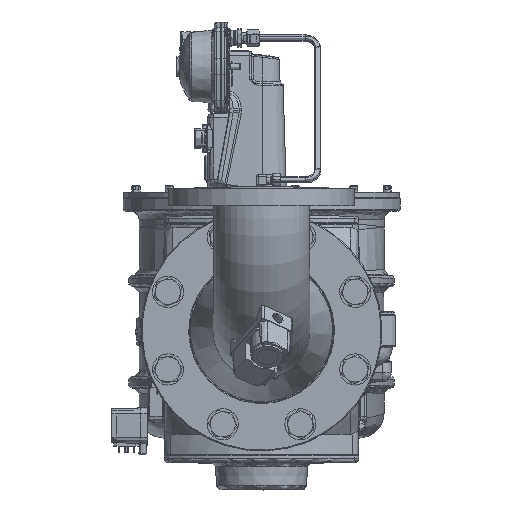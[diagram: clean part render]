
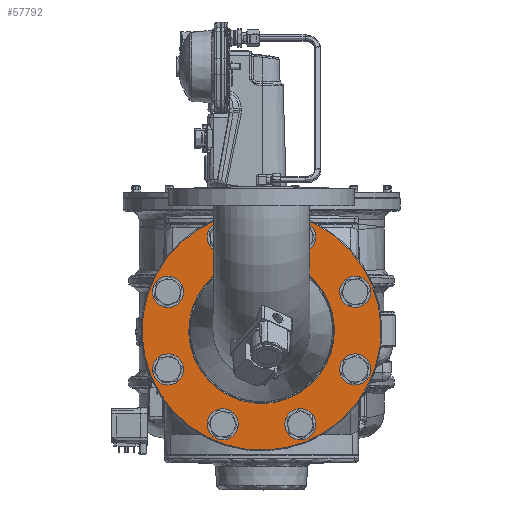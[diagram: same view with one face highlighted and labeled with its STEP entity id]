
A CAD part, top view. The second image highlights one B-rep face of the part: STEP entity #57792.
In plain terms, the highlighted planar face has unit normal (0, 0, 1).
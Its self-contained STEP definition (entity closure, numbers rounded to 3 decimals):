
#8267 = DIRECTION ( 'NONE',  ( 0., 0., -1. ) ) ;
#15232 = EDGE_LOOP ( 'NONE', ( #346216 ) ) ;
#19787 = ORIENTED_EDGE ( 'NONE', *, *, #358147, .F. ) ;
#21440 = VERTEX_POINT ( 'NONE', #100698 ) ;
#27723 = DIRECTION ( 'NONE',  ( 0.924, 0.383, 0. ) ) ;
#40784 = ORIENTED_EDGE ( 'NONE', *, *, #172835, .F. ) ;
#40843 = VERTEX_POINT ( 'NONE', #321013 ) ;
#42756 = CARTESIAN_POINT ( 'NONE',  ( 54.297, -41.712, 267. ) ) ;
#47467 = VERTEX_POINT ( 'NONE', #242909 ) ;
#53328 = CARTESIAN_POINT ( 'NONE',  ( 276.028, -41.712, 267. ) ) ;
#54954 = EDGE_CURVE ( 'NONE', #390035, #390035, #460704, .T. ) ;
#56731 = FACE_BOUND ( 'NONE', #164769, .T. ) ;
#57792 = ADVANCED_FACE ( 'NONE', ( #453540, #471714, #386985, #138490, #56731, #98920, #347314, #307469, #508804, #257393 ), #104023, .T. ) ;
#65318 = CARTESIAN_POINT ( 'NONE',  ( 44.134, 45.922, 267. ) ) ;
#72057 = CARTESIAN_POINT ( 'NONE',  ( 276.028, 50.132, 267. ) ) ;
#72434 = ORIENTED_EDGE ( 'NONE', *, *, #54954, .F. ) ;
#74533 = ORIENTED_EDGE ( 'NONE', *, *, #510893, .F. ) ;
#89043 = AXIS2_PLACEMENT_3D ( 'NONE', #372453, #335293, #168843 ) ;
#98920 = FACE_BOUND ( 'NONE', #141818, .T. ) ;
#100238 = DIRECTION ( 'NONE',  ( 0.924, 0.383, 0. ) ) ;
#100698 = CARTESIAN_POINT ( 'NONE',  ( 211.085, -106.656, 267. ) ) ;
#101795 = DIRECTION ( 'NONE',  ( 0., 0., 1. ) ) ;
#104023 = PLANE ( 'NONE',  #352350 ) ;
#106185 = EDGE_CURVE ( 'NONE', #362671, #362671, #191320, .T. ) ;
#108962 = CIRCLE ( 'NONE', #455378, 11. ) ;
#112697 = DIRECTION ( 'NONE',  ( 0.924, 0.383, 0. ) ) ;
#117382 = CARTESIAN_POINT ( 'NONE',  ( 109.078, 110.866, 267. ) ) ;
#138490 = FACE_BOUND ( 'NONE', #489951, .T. ) ;
#141818 = EDGE_LOOP ( 'NONE', ( #354509 ) ) ;
#146794 = CIRCLE ( 'NONE', #307150, 11. ) ;
#151322 = VERTEX_POINT ( 'NONE', #72057 ) ;
#153486 = CIRCLE ( 'NONE', #432197, 11. ) ;
#154138 = CIRCLE ( 'NONE', #323202, 11. ) ;
#157381 = AXIS2_PLACEMENT_3D ( 'NONE', #509145, #345040, #27723 ) ;
#164769 = EDGE_LOOP ( 'NONE', ( #472290 ) ) ;
#166217 = ORIENTED_EDGE ( 'NONE', *, *, #277567, .F. ) ;
#168458 = CIRCLE ( 'NONE', #514671, 11. ) ;
#168843 = DIRECTION ( 'NONE',  ( 0.924, 0.383, 0. ) ) ;
#170377 = CARTESIAN_POINT ( 'NONE',  ( 211.085, 115.075, 267. ) ) ;
#172835 = EDGE_CURVE ( 'NONE', #313090, #313090, #146794, .T. ) ;
#174708 = EDGE_CURVE ( 'NONE', #40843, #40843, #224855, .T. ) ;
#181195 = EDGE_LOOP ( 'NONE', ( #304649 ) ) ;
#186007 = DIRECTION ( 'NONE',  ( 0., 0., 1. ) ) ;
#191320 = CIRCLE ( 'NONE', #157381, 11. ) ;
#194154 = DIRECTION ( 'NONE',  ( 0., 0., 1. ) ) ;
#221114 = AXIS2_PLACEMENT_3D ( 'NONE', #306204, #515226, #470410 ) ;
#224325 = CARTESIAN_POINT ( 'NONE',  ( 200.922, -110.866, 267. ) ) ;
#224855 = CIRCLE ( 'NONE', #504123, 86.25 ) ;
#226339 = EDGE_CURVE ( 'NONE', #21440, #21440, #108962, .T. ) ;
#226884 = DIRECTION ( 'NONE',  ( 0., 0., 1. ) ) ;
#236341 = CARTESIAN_POINT ( 'NONE',  ( 54.297, 50.132, 267. ) ) ;
#240111 = DIRECTION ( 'NONE',  ( 0.924, 0.383, 0. ) ) ;
#242909 = CARTESIAN_POINT ( 'NONE',  ( 285.729, 54.15, 267. ) ) ;
#247790 = EDGE_CURVE ( 'NONE', #47467, #47467, #474625, .T. ) ;
#255114 = CARTESIAN_POINT ( 'NONE',  ( 265.866, 45.922, 267. ) ) ;
#257393 = FACE_OUTER_BOUND ( 'NONE', #181195, .T. ) ;
#267755 = CARTESIAN_POINT ( 'NONE',  ( 155., 0., 267. ) ) ;
#277567 = EDGE_CURVE ( 'NONE', #151322, #151322, #330987, .T. ) ;
#295787 = EDGE_CURVE ( 'NONE', #415611, #415611, #154138, .T. ) ;
#304649 = ORIENTED_EDGE ( 'NONE', *, *, #247790, .T. ) ;
#305251 = DIRECTION ( 'NONE',  ( 0.924, 0.383, 0. ) ) ;
#306204 = CARTESIAN_POINT ( 'NONE',  ( 155., 0., 267. ) ) ;
#306866 = CARTESIAN_POINT ( 'NONE',  ( 119.241, 115.075, 267. ) ) ;
#307150 = AXIS2_PLACEMENT_3D ( 'NONE', #65318, #475226, #112697 ) ;
#307469 = FACE_BOUND ( 'NONE', #513273, .T. ) ;
#313090 = VERTEX_POINT ( 'NONE', #236341 ) ;
#321013 = CARTESIAN_POINT ( 'NONE',  ( 234.685, 33.006, 267. ) ) ;
#321407 = EDGE_LOOP ( 'NONE', ( #166217 ) ) ;
#323202 = AXIS2_PLACEMENT_3D ( 'NONE', #405458, #521907, #365720 ) ;
#330987 = CIRCLE ( 'NONE', #373369, 11. ) ;
#335293 = DIRECTION ( 'NONE',  ( 0., 0., 1. ) ) ;
#345040 = DIRECTION ( 'NONE',  ( 0., 0., 1. ) ) ;
#346216 = ORIENTED_EDGE ( 'NONE', *, *, #106185, .F. ) ;
#347314 = FACE_BOUND ( 'NONE', #321407, .T. ) ;
#352350 = AXIS2_PLACEMENT_3D ( 'NONE', #267755, #186007, #426721 ) ;
#354509 = ORIENTED_EDGE ( 'NONE', *, *, #295787, .F. ) ;
#358147 = EDGE_CURVE ( 'NONE', #498295, #498295, #168458, .T. ) ;
#362671 = VERTEX_POINT ( 'NONE', #42756 ) ;
#364561 = CARTESIAN_POINT ( 'NONE',  ( 200.922, 110.866, 267. ) ) ;
#365720 = DIRECTION ( 'NONE',  ( 0.924, 0.383, 0. ) ) ;
#367188 = DIRECTION ( 'NONE',  ( 0., 0., 1. ) ) ;
#372453 = CARTESIAN_POINT ( 'NONE',  ( 109.078, -110.866, 267. ) ) ;
#373369 = AXIS2_PLACEMENT_3D ( 'NONE', #255114, #101795, #305251 ) ;
#379602 = CARTESIAN_POINT ( 'NONE',  ( 119.241, -106.656, 267. ) ) ;
#386359 = VERTEX_POINT ( 'NONE', #306866 ) ;
#386985 = FACE_BOUND ( 'NONE', #15232, .T. ) ;
#390035 = VERTEX_POINT ( 'NONE', #379602 ) ;
#405458 = CARTESIAN_POINT ( 'NONE',  ( 265.866, -45.922, 267. ) ) ;
#415611 = VERTEX_POINT ( 'NONE', #53328 ) ;
#426721 = DIRECTION ( 'NONE',  ( 0.924, 0.383, 0. ) ) ;
#432197 = AXIS2_PLACEMENT_3D ( 'NONE', #117382, #194154, #437580 ) ;
#435280 = ORIENTED_EDGE ( 'NONE', *, *, #174708, .T. ) ;
#437580 = DIRECTION ( 'NONE',  ( 0.924, 0.383, 0. ) ) ;
#447256 = CARTESIAN_POINT ( 'NONE',  ( 155., 0., 267. ) ) ;
#451099 = EDGE_LOOP ( 'NONE', ( #40784 ) ) ;
#453540 = FACE_BOUND ( 'NONE', #462898, .T. ) ;
#455135 = DIRECTION ( 'NONE',  ( 0.924, 0.383, 0. ) ) ;
#455378 = AXIS2_PLACEMENT_3D ( 'NONE', #224325, #226884, #100238 ) ;
#460704 = CIRCLE ( 'NONE', #89043, 11. ) ;
#461246 = EDGE_LOOP ( 'NONE', ( #74533 ) ) ;
#462898 = EDGE_LOOP ( 'NONE', ( #435280 ) ) ;
#470410 = DIRECTION ( 'NONE',  ( 0.924, 0.383, 0. ) ) ;
#471714 = FACE_BOUND ( 'NONE', #451099, .T. ) ;
#472290 = ORIENTED_EDGE ( 'NONE', *, *, #226339, .F. ) ;
#474625 = CIRCLE ( 'NONE', #221114, 141.5 ) ;
#475226 = DIRECTION ( 'NONE',  ( 0., 0., 1. ) ) ;
#489951 = EDGE_LOOP ( 'NONE', ( #72434 ) ) ;
#498295 = VERTEX_POINT ( 'NONE', #170377 ) ;
#504123 = AXIS2_PLACEMENT_3D ( 'NONE', #447256, #8267, #455135 ) ;
#508804 = FACE_BOUND ( 'NONE', #461246, .T. ) ;
#509145 = CARTESIAN_POINT ( 'NONE',  ( 44.134, -45.922, 267. ) ) ;
#510893 = EDGE_CURVE ( 'NONE', #386359, #386359, #153486, .T. ) ;
#513273 = EDGE_LOOP ( 'NONE', ( #19787 ) ) ;
#514671 = AXIS2_PLACEMENT_3D ( 'NONE', #364561, #367188, #240111 ) ;
#515226 = DIRECTION ( 'NONE',  ( 0., 0., 1. ) ) ;
#521907 = DIRECTION ( 'NONE',  ( 0., 0., 1. ) ) ;
